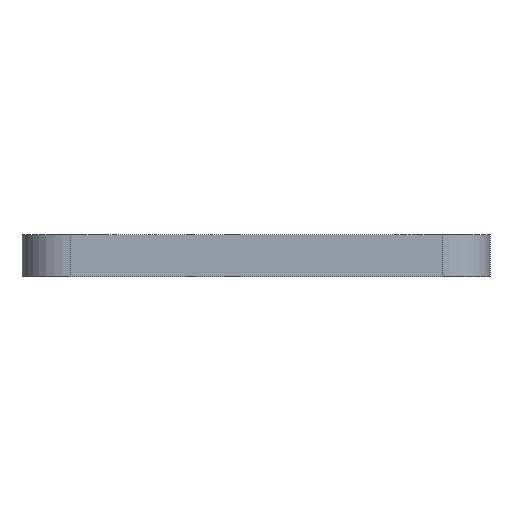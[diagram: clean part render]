
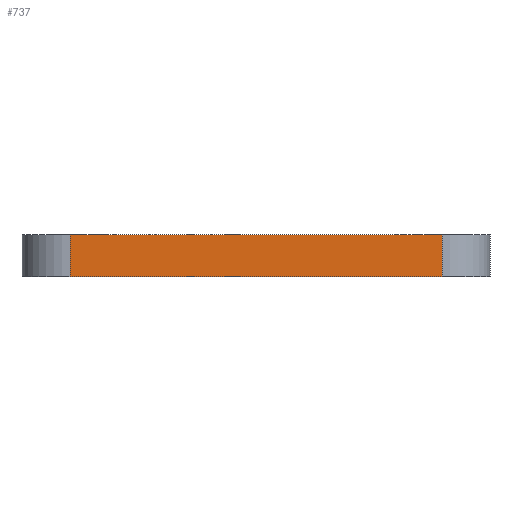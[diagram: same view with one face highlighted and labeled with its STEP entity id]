
A CAD part, front view. The second image highlights one B-rep face of the part: STEP entity #737.
In plain terms, the highlighted planar face has unit normal (0, -1, 0).
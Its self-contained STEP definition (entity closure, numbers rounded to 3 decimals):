
#33=PLANE('',#828);
#59=FACE_OUTER_BOUND('',#97,.T.);
#97=EDGE_LOOP('',(#537,#538,#539,#540));
#141=LINE('',#1146,#209);
#156=LINE('',#1194,#224);
#157=LINE('',#1196,#225);
#158=LINE('',#1197,#226);
#209=VECTOR('',#915,10.);
#224=VECTOR('',#964,10.);
#225=VECTOR('',#965,10.);
#226=VECTOR('',#966,10.);
#321=VERTEX_POINT('',#1142);
#323=VERTEX_POINT('',#1145);
#339=VERTEX_POINT('',#1193);
#340=VERTEX_POINT('',#1195);
#396=EDGE_CURVE('',#321,#323,#141,.T.);
#420=EDGE_CURVE('',#339,#321,#156,.T.);
#421=EDGE_CURVE('',#339,#340,#157,.T.);
#422=EDGE_CURVE('',#323,#340,#158,.T.);
#537=ORIENTED_EDGE('',*,*,#420,.F.);
#538=ORIENTED_EDGE('',*,*,#421,.T.);
#539=ORIENTED_EDGE('',*,*,#422,.F.);
#540=ORIENTED_EDGE('',*,*,#396,.F.);
#737=ADVANCED_FACE('',(#59),#33,.F.);
#828=AXIS2_PLACEMENT_3D('',#1192,#962,#963);
#915=DIRECTION('',(0.,0.,-1.));
#962=DIRECTION('center_axis',(0.,1.,0.));
#963=DIRECTION('ref_axis',(1.,0.,0.));
#964=DIRECTION('',(1.,0.,0.));
#965=DIRECTION('',(0.,0.,-1.));
#966=DIRECTION('',(-1.,0.,0.));
#1142=CARTESIAN_POINT('',(15.5,-18.25,0.));
#1145=CARTESIAN_POINT('',(15.5,-18.25,-3.5));
#1146=CARTESIAN_POINT('',(15.5,-18.25,0.));
#1192=CARTESIAN_POINT('Origin',(-15.5,-18.25,0.));
#1193=CARTESIAN_POINT('',(-15.5,-18.25,0.));
#1194=CARTESIAN_POINT('',(0.,-18.25,0.));
#1195=CARTESIAN_POINT('',(-15.5,-18.25,-3.5));
#1196=CARTESIAN_POINT('',(-15.5,-18.25,0.));
#1197=CARTESIAN_POINT('',(0.,-18.25,-3.5));
